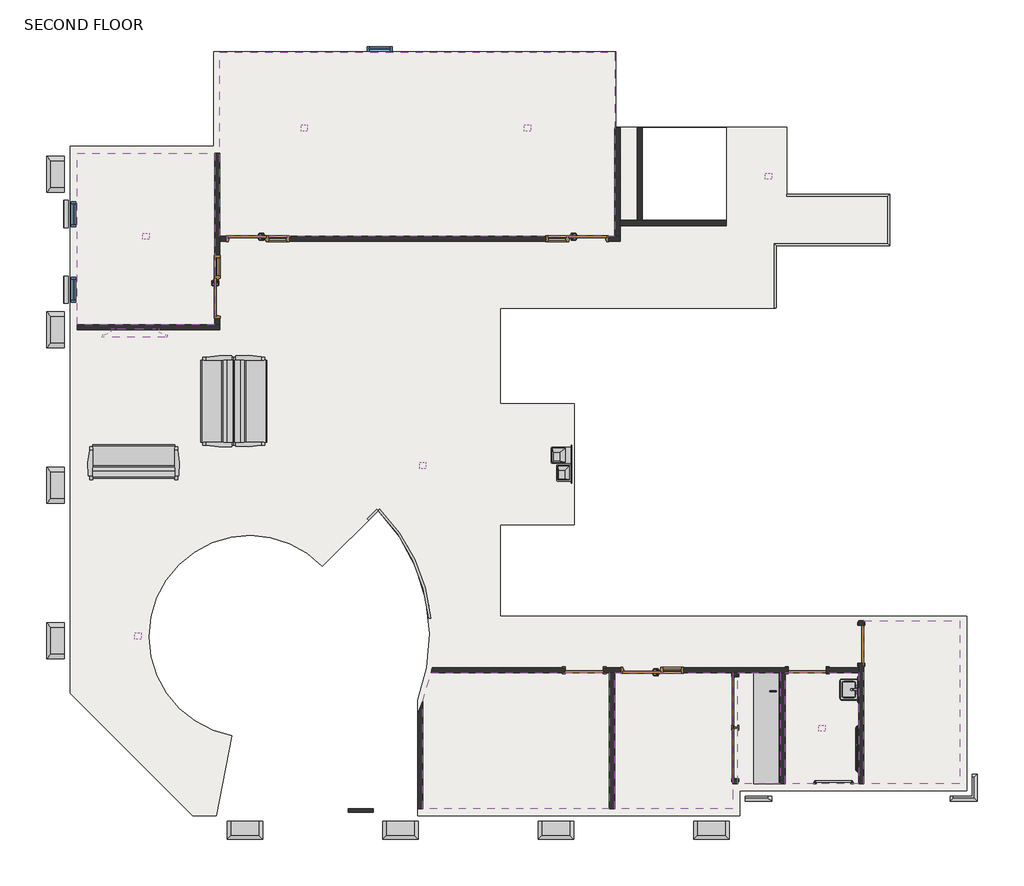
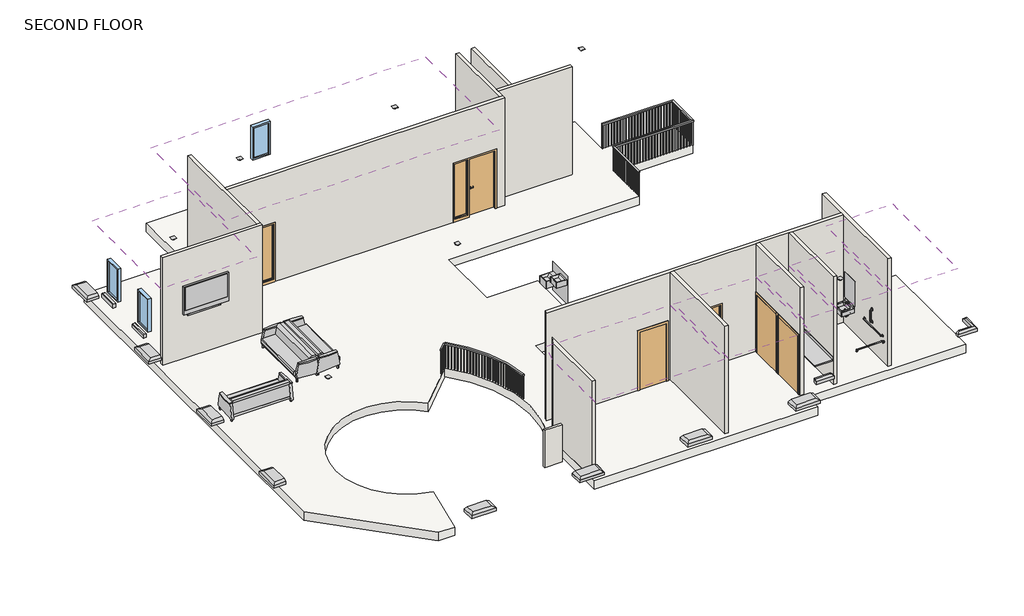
# One storey, incomplete: 13 proxies, 13 walls, 9 doors, 7 alarms, 7 coverings, 4 furniture elements, 3 flow terminals, 3 railings, 4 other elements.
"""IFC4 building model written with IfcOpenShell, lengths in millimetres."""

from ifc_helpers import new_model, si_unit, point, frame, frame_2d, origin, place, context, project, spatial, polyline, circle_curve, trimmed, segment, composite_curve, outline, extrude, faceted_brep, transform, mapped, element, save
from ifc_brep_helpers import plane_surface, revolved_surface, advanced_brep
from components import alarm_15cd_51c740ec, photoelectric_866833d5, column_cap_corner_column_cap_corner_2673580a, column_cap_column_cap_363ad37e, grab_bar_ada_3_piece_grab_bar_ada_3_piece_66226777, precast_column_cap10_precast_column_cap_2545b0d7, precast_column_cap3_precast_column_cap_b02b9755, precast_column_cap4_precast_column_cap_0c692d38, proxy_52aa913c, tv_plasma_65_inch_5397_tv_plasma_42_inch_3d32dca7, door_5f36bbb1, hm_frame_door_interior_single_with_sidelite_831faa12, hm_frame_door_interior_single_with_sidelite_94e37508, door_88503111, door_eb9f8b14, flow_terminal_cf2a86d7, flow_terminal_50ef5554, flow_terminal_77e50434, furniture_2134_mm_67ee6dc0, furniture_60aab8a8, handrail_rectangular_2085f445, handrail_rectangular_c3d4dcf0, handrail_rectangular_678e5dc5, aluminum_exterior_window_single_3885_e2dbf674

model = new_model("IFC4")

# Units and contexts
model_context = context("Model", 3, world=origin())
ifc_project = project(units=[si_unit("LENGTHUNIT", "METRE", prefix="MILLI")], contexts=[model_context])

# Site, building, storey
site = spatial("IfcSite", under=ifc_project)
building = spatial("IfcBuilding", under=site)
storey = spatial("IfcBuildingStorey", under=building, Name="SECOND FLOOR", Elevation=34594.8)

# Alarms
placement = place(None, origin())
alarm_15cd_shape = alarm_15cd_51c740ec(model_context)
element("IfcAlarm", 1, ObjectType="FireBIM Tutorial Strobe (Ceiling) : 15cd", at=placement, inside=storey, context=model_context, shape_type="MappedRepresentation", body=[
    mapped(alarm_15cd_shape, transform((-11026.885253, 10506.2010405, 37338.0), x_axis=(-1.0, 0.0, 0.0), y_axis=(0.0, 1.0, 0.0), z_axis=(0.0, 0.0, -1.0))),
])
element("IfcAlarm", 2, ObjectType="FireBIM Tutorial Strobe (Ceiling) : 15cd", at=placement, inside=storey, context=model_context, shape_type="MappedRepresentation", body=[
    mapped(alarm_15cd_shape, transform((-5630.972753, 10506.2010405, 37338.0), x_axis=(-1.0, 0.0, 0.0), y_axis=(0.0, 1.0, 0.0), z_axis=(0.0, 0.0, -1.0))),
])
element("IfcAlarm", 3, ObjectType="FireBIM Tutorial Strobe (Ceiling) : 15cd", at=placement, inside=storey, context=model_context, shape_type="MappedRepresentation", body=[
    mapped(alarm_15cd_shape, transform((-14854.347753, 7886.8158805, 37338.0), x_axis=(-1.0, 0.0, 0.0), y_axis=(0.0, 1.0, 0.0), z_axis=(0.0, 0.0, -1.0))),
])
element("IfcAlarm", 4, ObjectType="FireBIM Tutorial Strobe (Ceiling) : 15cd", at=placement, inside=storey, context=model_context, shape_type="MappedRepresentation", body=[
    mapped(alarm_15cd_shape, transform((1488.964747, -4003.4981079, 37338.0), x_axis=(-1.0, 0.0, 0.0), y_axis=(0.0, 1.0, 0.0), z_axis=(0.0, 0.0, -1.0))),
])
element("IfcAlarm", 5, ObjectType="FireBIM Tutorial Strobe (Ceiling) : 30cd", at=placement, inside=storey, context=model_context, shape_type="MappedRepresentation", body=[
    mapped(alarm_15cd_shape, transform((-8159.860253, 2349.6260405, 38150.8), x_axis=(1.0, 0.0, 0.0), y_axis=(0.0, -1.0, 0.0), z_axis=(0.0, 0.0, -1.0))),
])
element("IfcAlarm", 6, ObjectType="FireBIM Tutorial Strobe (Ceiling) : 75cd", at=placement, inside=storey, context=model_context, shape_type="MappedRepresentation", body=[
    mapped(alarm_15cd_shape, transform((-15046.435253, -1777.7722564, 38150.8), x_axis=(-1.0, 0.0, 0.0), y_axis=(0.0, 1.0, 0.0), z_axis=(0.0, 0.0, -1.0))),
])
photoelectric_shape = photoelectric_866833d5(model_context)
element("IfcAlarm", 7, ObjectType="FireBIM Tutorial Smoke Detector (Ceiling) : Photoelectric", at=placement, inside=storey, context=model_context, shape_type="MappedRepresentation", body=[
    mapped(photoelectric_shape, transform((196.739747, 9337.8010405, 38150.8), x_axis=(-1.0, 0.0, 0.0), y_axis=(0.0, 1.0, 0.0), z_axis=(0.0, 0.0, -1.0))),
])

# Proxies
column_cap_corner_column_cap_corner_shape = column_cap_corner_column_cap_corner_2673580a(model_context)
element("IfcBuildingElementProxy", 8, Name="COLUMN CAP - CORNER : COLUMN CAP - CORNER", ObjectType="COLUMN CAP - CORNER : COLUMN CAP - CORNER", at=placement, inside=storey, context=model_context, shape_type="MappedRepresentation", body=[
    mapped(column_cap_corner_column_cap_corner_shape, transform((0.0, 0.0, 0.0), x_axis=(1.0, 0.0, 0.0), y_axis=(0.0, 1.0, 0.0), z_axis=(0.0, 0.0, 1.0))),
])
column_cap_column_cap_shape = column_cap_column_cap_363ad37e(model_context)
element("IfcBuildingElementProxy", 9, Name="COLUMN CAP : COLUMN CAP", ObjectType="COLUMN CAP : COLUMN CAP", at=placement, inside=storey, context=model_context, shape_type="MappedRepresentation", body=[
    mapped(column_cap_column_cap_shape, transform((0.0, 0.0, 0.0), x_axis=(1.0, 0.0, 0.0), y_axis=(0.0, 1.0, 0.0), z_axis=(0.0, 0.0, 1.0))),
])
grab_bar_ada_3_piece_grab_bar_ada_3_piece_shape = grab_bar_ada_3_piece_grab_bar_ada_3_piece_66226777(model_context)
element("IfcBuildingElementProxy", 10, Name="Grab Bar ADA - 3 Piece : Grab Bar ADA - 3 Piece", ObjectType="Grab Bar ADA - 3 Piece : Grab Bar ADA - 3 Piece", at=placement, inside=storey, context=model_context, shape_type="MappedRepresentation", body=[
    mapped(grab_bar_ada_3_piece_grab_bar_ada_3_piece_shape, transform((2377.964747, -5495.7989595, 34709.1), x_axis=(-1.0, 0.0, 0.0), y_axis=(0.0, -1.0, 0.0), z_axis=(0.0, 0.0, 1.0))),
])
precast_column_cap10_precast_column_cap_shape = precast_column_cap10_precast_column_cap_2545b0d7(model_context)
element("IfcBuildingElementProxy", 11, Name="Precast Column Cap10 : Precast Column Cap", ObjectType="Precast Column Cap10 : Precast Column Cap", at=placement, inside=storey, context=model_context, shape_type="MappedRepresentation", body=[
    mapped(precast_column_cap10_precast_column_cap_shape, transform((-10566.6362936, -3067.0443725, 0.0), x_axis=(0.0, -1.0, 0.0), y_axis=(1.0, 0.0, 0.0), z_axis=(0.0, 0.0, 1.0))),
])
element("IfcBuildingElementProxy", 12, Name="Precast Column Cap11 : Precast Column Cap", ObjectType="Precast Column Cap11 : Precast Column Cap", at=placement, inside=storey, context=model_context, shape_type="MappedRepresentation", body=[
    mapped(precast_column_cap10_precast_column_cap_shape, transform((-10566.6362936, 692.1454675, 0.0), x_axis=(0.0, -1.0, 0.0), y_axis=(1.0, 0.0, 0.0), z_axis=(0.0, 0.0, 1.0))),
])
element("IfcBuildingElementProxy", 13, Name="Precast Column Cap12 : Precast Column Cap", ObjectType="Precast Column Cap12 : Precast Column Cap", at=placement, inside=storey, context=model_context, shape_type="MappedRepresentation", body=[
    mapped(precast_column_cap10_precast_column_cap_shape, transform((-10566.6362936, 4451.3353075, 0.0), x_axis=(0.0, -1.0, 0.0), y_axis=(1.0, 0.0, 0.0), z_axis=(0.0, 0.0, 1.0))),
])
element("IfcBuildingElementProxy", 14, Name="Precast Column Cap2 : Precast Column Cap", ObjectType="Precast Column Cap2 : Precast Column Cap", at=placement, inside=storey, context=model_context, shape_type="MappedRepresentation", body=[
    mapped(precast_column_cap10_precast_column_cap_shape, transform((0.0, 0.0, 0.0), x_axis=(1.0, 0.0, 0.0), y_axis=(0.0, 1.0, 0.0), z_axis=(0.0, 0.0, 1.0))),
])
precast_column_cap3_precast_column_cap_shape = precast_column_cap3_precast_column_cap_b02b9755(model_context)
element("IfcBuildingElementProxy", 15, Name="Precast Column Cap3 : Precast Column Cap", ObjectType="Precast Column Cap3 : Precast Column Cap", at=placement, inside=storey, context=model_context, shape_type="MappedRepresentation", body=[
    mapped(precast_column_cap3_precast_column_cap_shape, transform((0.0, 0.0, 0.0), x_axis=(1.0, 0.0, 0.0), y_axis=(0.0, 1.0, 0.0), z_axis=(0.0, 0.0, 1.0))),
])
precast_column_cap4_precast_column_cap_shape = precast_column_cap4_precast_column_cap_0c692d38(model_context)
element("IfcBuildingElementProxy", 16, Name="Precast Column Cap4 : Precast Column Cap", ObjectType="Precast Column Cap4 : Precast Column Cap", at=placement, inside=storey, context=model_context, shape_type="MappedRepresentation", body=[
    mapped(precast_column_cap4_precast_column_cap_shape, transform((0.0, 0.0, 0.0), x_axis=(1.0, 0.0, 0.0), y_axis=(0.0, 1.0, 0.0), z_axis=(0.0, 0.0, 1.0))),
])
element("IfcBuildingElementProxy", 17, Name="Precast Column Cap9 : Precast Column Cap", ObjectType="Precast Column Cap9 : Precast Column Cap", at=placement, inside=storey, context=model_context, shape_type="MappedRepresentation", body=[
    mapped(precast_column_cap10_precast_column_cap_shape, transform((-10566.6362936, -6826.214034, 0.0), x_axis=(0.0, -1.0, 0.0), y_axis=(1.0, 0.0, 0.0), z_axis=(0.0, 0.0, 1.0))),
])
proxy_shape = proxy_52aa913c(model_context)
element("IfcBuildingElementProxy", 18, Name="Stone Sill : 2' x 8\" x 3 5/8\" Deep", ObjectType="Stone Sill : 2' x 8\" x 3 5/8\" Deep", at=placement, inside=storey, context=model_context, shape_type="MappedRepresentation", body=[
    mapped(proxy_shape, transform((-16673.80834, 5980.3756405, 33267.1320312), x_axis=(0.0, 1.0, 0.0), y_axis=(-1.0, 0.0, 0.0), z_axis=(0.0, 0.0, 1.0))),
])
element("IfcBuildingElementProxy", 19, Name="Stone Sill : 2' x 8\" x 3 5/8\" Deep", ObjectType="Stone Sill : 2' x 8\" x 3 5/8\" Deep", at=placement, inside=storey, context=model_context, shape_type="MappedRepresentation", body=[
    mapped(proxy_shape, transform((-16673.80834, 7809.1756405, 33267.1320313), x_axis=(0.0, 1.0, 0.0), y_axis=(-1.0, 0.0, 0.0), z_axis=(0.0, 0.0, 1.0))),
])
tv_plasma_65_inch_5397_tv_plasma_42_inch_shape = tv_plasma_65_inch_5397_tv_plasma_42_inch_3d32dca7(model_context)
element("IfcBuildingElementProxy", 20, Name="TV_PLASMA_65_INCH_5397 : TV Plasma 42 inch", ObjectType="TV_PLASMA_65_INCH_5397 : TV Plasma 42 inch", at=placement, inside=storey, context=model_context, shape_type="MappedRepresentation", body=[
    mapped(tv_plasma_65_inch_5397_tv_plasma_42_inch_shape, transform((-15119.460253, 5502.3807205, 35509.2), x_axis=(1.0, 0.0, 0.0), y_axis=(0.0, 1.0, 0.0), z_axis=(0.0, 0.0, 1.0))),
])

# Coverings
element("IfcCovering", 21, ObjectType="2' x 2' ACT System", at=placement, inside=storey, context=model_context, shape_type="SweptSolid", body=[
    extrude(outline(composite_curve([segment(polyline([(-3649.772753, -2663.5972564), (-3649.772753, -5952.9989595), (-8159.860253, -5952.9989595), (-8159.860253, -3356.4468483)]), True, "CONTINUOUS"), segment(trimmed(circle_curve(frame_2d((-12311.0905196, -1776.2264191)), 4441.825), [point((-8159.860253, -3356.4468483))], [point((-7958.8057946, -2663.5972564))], True, "CARTESIAN"), True, "CONTINUOUS"), segment(polyline([(-7958.8057946, -2663.5972564), (-3649.772753, -2663.5972564)]), True, "CONTINUOUS")], self_intersect=False)), frame((0.0, 0.0, 37338.0), z_axis=(0.0, 0.0, 1.0), x_axis=(1.0, 0.0, 0.0)), (0.0, 0.0, 1.0), 57.15),
])
element("IfcCovering", 22, ObjectType="2' x 2' ACT System", at=placement, inside=storey, context=model_context, shape_type="SweptSolid", body=[
    extrude(outline(polyline([(-670.035253, -2663.5972564), (-670.035253, -5495.7989595), (-670.035253, -5952.9989595), (-3525.947753, -5952.9989595), (-3525.947753, -2663.5972564), (-670.035253, -2663.5972564)])), frame((0.0, 0.0, 37338.0), z_axis=(0.0, 0.0, 1.0), x_axis=(1.0, 0.0, 0.0)), (0.0, 0.0, 1.0), 57.15),
])
element("IfcCovering", 23, ObjectType="2' x 2' ACT System", at=placement, inside=storey, context=model_context, shape_type="SweptSolid", body=[
    extrude(outline(polyline([(476.139747, -2663.5972564), (476.139747, -5343.3989595), (-546.210253, -5343.3989595), (-546.210253, -2663.5972564), (476.139747, -2663.5972564)])), frame((0.0, 0.0, 37338.0), z_axis=(0.0, 0.0, 1.0), x_axis=(1.0, 0.0, 0.0)), (0.0, 0.0, 1.0), 57.15),
])
element("IfcCovering", 24, ObjectType="2' x 2' ACT System", at=placement, inside=storey, context=model_context, shape_type="SweptSolid", body=[
    extrude(outline(polyline([(2377.964747, -5343.3989595), (599.964747, -5343.3989595), (599.964747, -2663.5972564), (2377.964747, -2663.5972564), (2377.964747, -5343.3989595)])), frame((0.0, 0.0, 37338.0), z_axis=(0.0, 0.0, 1.0), x_axis=(1.0, 0.0, 0.0)), (0.0, 0.0, 1.0), 57.15),
])
element("IfcCovering", 25, ObjectType="2' x 2' ACT System", at=placement, inside=storey, context=model_context, shape_type="SweptSolid", body=[
    extrude(outline(polyline([(4816.364747, -1403.2239595), (4816.364747, -5343.3989595), (2501.789747, -5343.3989595), (2501.789747, -1403.2239595), (4816.364747, -1403.2239595)])), frame((0.0, 0.0, 37338.0), z_axis=(0.0, 0.0, 1.0), x_axis=(1.0, 0.0, 0.0)), (0.0, 0.0, 1.0), 57.15),
])
element("IfcCovering", 26, ObjectType="2' x 2' ACT System", at=placement, inside=storey, context=model_context, shape_type="SweptSolid", body=[
    extrude(outline(polyline([(-13065.235253, 12335.0010405), (-8332.897753, 12335.0010405), (-3514.835253, 12335.0010405), (-3514.835253, 10658.6010405), (-3514.835253, 7886.8158805), (-13065.235253, 7886.8158805), (-13065.235253, 10049.0010405), (-13065.235253, 12335.0010405)])), frame((0.0, 0.0, 37338.0), z_axis=(0.0, 0.0, 1.0), x_axis=(1.0, 0.0, 0.0)), (0.0, 0.0, 1.0), 57.15),
])
element("IfcCovering", 27, ObjectType="2' x 2' ACT System", at=placement, inside=storey, context=model_context, shape_type="SweptSolid", body=[
    extrude(outline(polyline([(-16519.635253, 9896.6010405), (-13189.060253, 9896.6010405), (-13189.060253, 5753.2057205), (-16519.635253, 5753.2057205), (-16519.635253, 9896.6010405)])), frame((0.0, 0.0, 37338.0), z_axis=(0.0, 0.0, 1.0), x_axis=(1.0, 0.0, 0.0)), (0.0, 0.0, 1.0), 57.15),
])

# Doors
door_shape = door_5f36bbb1(model_context)
element("IfcDoor", 28, ObjectType="Double-Flush-Wood Frame : (2) 2'-0\" x 7'-0\"", at=placement, inside=storey, context=model_context, shape_type="MappedRepresentation", body=[
    mapped(door_shape, transform((-608.122753, -3368.4472564, 34594.8), x_axis=(0.0, 1.0, 0.0), y_axis=(-1.0, 0.0, 0.0), z_axis=(0.0, 0.0, 1.0))),
])
element("IfcDoor", 29, ObjectType="Double-Flush-Wood Frame : (2) 2'-0\" x 7'-0\"", at=placement, inside=storey, context=model_context, shape_type="MappedRepresentation", body=[
    mapped(door_shape, transform((-608.122753, -4613.0472564, 34594.8), x_axis=(0.0, 1.0, 0.0), y_axis=(-1.0, 0.0, 0.0), z_axis=(0.0, 0.0, 1.0))),
])
hm_frame_door_interior_single_with_sidelite_shape = hm_frame_door_interior_single_with_sidelite_831faa12(model_context)
element("IfcDoor", 30, ObjectType="HM Frame Door - Interior Single with Sidelite : 36\" x 84\" x 5.75\" x 18\" Lite_Wood", at=placement, inside=storey, context=model_context, shape_type="MappedRepresentation", body=[
    mapped(hm_frame_door_interior_single_with_sidelite_shape, transform((-2865.547753, -2601.6847564, 34594.8), x_axis=(-1.0, 0.0, 0.0), y_axis=(0.0, -1.0, 0.0), z_axis=(0.0, 0.0, 1.0))),
])
element("IfcDoor", 31, ObjectType="HM Frame Door - Interior Single with Sidelite : 36\" x 84\" x 5.75\" x 18\" Lite_Wood", at=placement, inside=storey, context=model_context, shape_type="MappedRepresentation", body=[
    mapped(hm_frame_door_interior_single_with_sidelite_shape, transform((-4175.235253, 7824.9033805, 34594.8), x_axis=(1.0, 0.0, 0.0), y_axis=(0.0, 1.0, 0.0), z_axis=(0.0, 0.0, 1.0))),
])
hm_frame_door_interior_single_with_sidelite_2_shape = hm_frame_door_interior_single_with_sidelite_94e37508(model_context)
element("IfcDoor", 32, ObjectType="HM Frame Door - Interior Single with Sidelite : 36\" x 84\" x 5.75\" x 18\" Lite_Wood", at=placement, inside=storey, context=model_context, shape_type="MappedRepresentation", body=[
    mapped(hm_frame_door_interior_single_with_sidelite_2_shape, transform((-13127.147753, 6413.6057205, 34594.8), x_axis=(0.0, -1.0, 0.0), y_axis=(1.0, 0.0, 0.0), z_axis=(0.0, 0.0, 1.0))),
])
element("IfcDoor", 33, ObjectType="HM Frame Door - Interior Single with Sidelite : 36\" x 84\" x 5.75\" x 18\" Lite_Wood", at=placement, inside=storey, context=model_context, shape_type="MappedRepresentation", body=[
    mapped(hm_frame_door_interior_single_with_sidelite_2_shape, transform((-12404.835253, 7824.9033805, 34594.8), x_axis=(-1.0, 0.0, 0.0), y_axis=(0.0, -1.0, 0.0), z_axis=(0.0, 0.0, 1.0))),
])
door_2_shape = door_88503111(model_context)
element("IfcDoor", 34, ObjectType="Single-Flush : 36\" x 84\"", at=placement, inside=storey, context=model_context, shape_type="MappedRepresentation", body=[
    mapped(door_2_shape, transform((1133.364747, -2601.6847564, 34594.8), x_axis=(-1.0, 0.0, 0.0), y_axis=(0.0, -1.0, 0.0), z_axis=(0.0, 0.0, 1.0))),
])
door_3_shape = door_eb9f8b14(model_context)
element("IfcDoor", 35, ObjectType="Single-Flush : 36\" x 84\"", at=placement, inside=storey, context=model_context, shape_type="MappedRepresentation", body=[
    mapped(door_3_shape, transform((2439.877247, -1971.4981079, 34594.8), x_axis=(0.0, 1.0, 0.0), y_axis=(-1.0, 0.0, 0.0), z_axis=(0.0, 0.0, 1.0))),
])
element("IfcDoor", 36, ObjectType="Single-Flush : 36\" x 84\"", at=placement, inside=storey, context=model_context, shape_type="MappedRepresentation", body=[
    mapped(door_3_shape, transform((-4259.372753, -2601.6847564, 34594.8), x_axis=(1.0, 0.0, 0.0), y_axis=(0.0, 1.0, 0.0), z_axis=(0.0, 0.0, 1.0))),
])

# Flow terminals
flow_terminal_shape = flow_terminal_cf2a86d7(model_context)
element("IfcFlowTerminal", 37, ObjectType="Drinking Fountain-Hi-Lo-3D : Drinking Fountain-Hi-Lo-3D", at=placement, inside=storey, context=model_context, shape_type="MappedRepresentation", body=[
    mapped(flow_terminal_shape, transform((-4502.260253, 2390.3195947, 34594.8), x_axis=(0.0, 1.0, 0.0), y_axis=(-1.0, 0.0, 0.0), z_axis=(0.0, 0.0, 1.0))),
])
flow_terminal_2_shape = flow_terminal_50ef5554(model_context)
element("IfcFlowTerminal", 38, ObjectType="Sink Kitchen-Single : 24\" x 21\"", at=placement, inside=storey, context=model_context, shape_type="MappedRepresentation", body=[
    mapped(flow_terminal_2_shape, transform((168.9638659, -3092.4080159, 34442.4), x_axis=(0.0, -1.0, 0.0), y_axis=(1.0, 0.0, 0.0), z_axis=(0.0, 0.0, 1.0))),
])
flow_terminal_3_shape = flow_terminal_77e50434(model_context)
element("IfcFlowTerminal", 39, ObjectType="sink_wall hung w_mirror_4835 : 20\" x 18\"", at=placement, inside=storey, context=model_context, shape_type="MappedRepresentation", body=[
    mapped(flow_terminal_3_shape, transform((2439.877247, -3363.5869526, 34594.8), x_axis=(0.0, 1.0, 0.0), y_axis=(-1.0, 0.0, 0.0), z_axis=(0.0, 0.0, 1.0))),
])

# Furniture
furniture_2134_mm_shape = furniture_2134_mm_67ee6dc0(model_context)
element("IfcFurniture", 40, ObjectType="M_Banquette (2) : 2134 mm", at=placement, inside=storey, context=model_context, shape_type="MappedRepresentation", body=[
    mapped(furniture_2134_mm_shape, transform((-12076.925417, 3623.5947905, 34594.8), x_axis=(0.0, 1.0, 0.0), y_axis=(-1.0, 0.0, 0.0), z_axis=(0.0, 0.0, 1.0))),
])
element("IfcFurniture", 41, ObjectType="M_Banquette (2) : 2134 mm", at=placement, inside=storey, context=model_context, shape_type="MappedRepresentation", body=[
    mapped(furniture_2134_mm_shape, transform((-14869.429003, 2706.1007166, 34594.8), x_axis=(-1.0, 0.0, 0.0), y_axis=(0.0, -1.0, 0.0), z_axis=(0.0, 0.0, 1.0))),
])
element("IfcFurniture", 42, ObjectType="M_Banquette (2) : 2134 mm", at=placement, inside=storey, context=model_context, shape_type="MappedRepresentation", body=[
    mapped(furniture_2134_mm_shape, transform((-13386.7950891, 4180.8072905, 34594.8), x_axis=(0.0, -1.0, 0.0), y_axis=(1.0, 0.0, 0.0), z_axis=(0.0, 0.0, 1.0))),
])
furniture_shape = furniture_60aab8a8(model_context)
element("IfcFurniture", 43, ObjectType="Counter Top : 24\" Depth", at=placement, inside=storey, context=model_context, shape_type="MappedRepresentation", body=[
    mapped(furniture_shape, transform((476.139747, -3864.0595515, 34594.8), x_axis=(0.0, -1.0, 0.0), y_axis=(1.0, 0.0, 0.0), z_axis=(0.0, 0.0, 1.0))),
])

# Railings
handrail_rectangular_shape = handrail_rectangular_2085f445(model_context)
element("IfcRailing", 44, ObjectType="Handrail - Rectangular", at=placement, inside=storey, context=model_context, shape_type="MappedRepresentation", body=[
    mapped(handrail_rectangular_shape, transform((0.0, 0.0, 0.0), x_axis=(1.0, 0.0, 0.0), y_axis=(0.0, 1.0, 0.0), z_axis=(0.0, 0.0, 1.0))),
])
handrail_rectangular_2_shape = handrail_rectangular_c3d4dcf0(model_context)
element("IfcRailing", 45, ObjectType="Handrail - Rectangular", at=placement, inside=storey, context=model_context, shape_type="MappedRepresentation", body=[
    mapped(handrail_rectangular_2_shape, transform((0.0, 0.0, 0.0), x_axis=(1.0, 0.0, 0.0), y_axis=(0.0, 1.0, 0.0), z_axis=(0.0, 0.0, 1.0))),
])
handrail_rectangular_3_shape = handrail_rectangular_678e5dc5(model_context)
element("IfcRailing", 46, ObjectType="Handrail - Rectangular", at=placement, inside=storey, context=model_context, shape_type="MappedRepresentation", body=[
    mapped(handrail_rectangular_3_shape, transform((0.0, 0.0, 0.0), x_axis=(1.0, 0.0, 0.0), y_axis=(0.0, 1.0, 0.0), z_axis=(0.0, 0.0, 1.0))),
])

# Slab
element("IfcSlab", 47, ObjectType="Generic - 12\"", at=placement, inside=storey, context=model_context, shape_type="SweptSolid", body=[
    extrude(outline(composite_curve([segment(polyline([(-16687.910253, 10064.8760405), (-13217.635253, 10064.8760405), (-13217.635253, 12350.8760405), (-3498.960253, 12350.8760405), (-3498.960253, 10522.0760405), (639.7789583, 10522.0760405), (639.7789583, 8880.6010405), (3103.5789583, 8880.6010405), (3103.5789583, 7683.6260405), (360.3789583, 7683.6260405), (360.3789583, 6143.7510405), (-6286.610253, 6143.7510405), (-6286.610253, 3840.2885405), (-4502.260253, 3840.2885405), (-4502.260253, 916.1135405), (-6286.610253, 916.1135405), (-6286.610253, -1295.2739595), (4984.639747, -1295.2739595), (4984.639747, -5511.6739595), (-501.760253, -5511.6739595), (-501.760253, -6121.2739595), (-8283.685253, -6121.2739595), (-8283.685253, -3333.5095722)]), True, "CONTINUOUS"), segment(trimmed(circle_curve(frame_2d((-12311.0905196, -1776.2264191)), 4318.0), [point((-8283.685253, -3333.5095722))], [point((-9237.3360005, 1256.4550934))], True, "CARTESIAN"), True, "CONTINUOUS"), segment(polyline([(-9237.3360005, 1256.4550934), (-10586.567731, -92.776637)]), True, "CONTINUOUS"), segment(trimmed(circle_curve(frame_2d((-12346.8147633, -1780.1784698)), 2438.4), [point((-10586.567731, -92.776637))], [point((-12774.0818528, -4180.8528322))], True, "CARTESIAN"), True, "CONTINUOUS"), segment(polyline([(-12774.0818528, -4180.8528322), (-13147.6942193, -6121.2739595), (-13719.8847464, -6121.2739595), (-16687.910253, -3153.2484529), (-16687.910253, 10064.8760405)]), True, "CONTINUOUS")], self_intersect=False), holes=[polyline([(-822.435253, 10506.2010405), (-2854.435253, 10506.2010405), (-2854.435253, 8271.0010405), (-822.435253, 8271.0010405), (-822.435253, 10506.2010405)])]), frame((0.0, 0.0, 34290.0), z_axis=(0.0, 0.0, 1.0), x_axis=(1.0, 0.0, 0.0)), (0.0, 0.0, 1.0), 304.8),
])

# Walls
element("IfcWall", 48, ObjectType="Interior - 3 1/8\" Partition (1-hr)", at=placement, inside=storey, context=model_context, shape_type="SweptSolid", body=[
    extrude(outline(polyline([(-9966.435253, -5952.9989595), (-9356.835253, -5952.9989595), (-9356.835253, -6032.3739595), (-9966.435253, -6032.3739595), (-9966.435253, -5952.9989595)])), frame((0.0, 0.0, 35610.8), z_axis=(0.0, 0.0, 1.0), x_axis=(1.0, 0.0, 0.0)), (0.0, 0.0, 1.0), 1371.6),
])
element("IfcWall", 49, ObjectType="Interior - 4 7/8\" Partition (1-hr)", at=placement, inside=storey, context=model_context, shape_type="SweptSolid", body=[
    extrude(outline(polyline([(-5343.3989595, 38557.2), (-2663.5972564, 38557.2), (-2663.5972564, 34594.8), (-2733.4472564, 34594.8), (-2733.4472564, 36753.8), (-5248.0472564, 36753.8), (-5248.0472564, 34594.8), (-5343.3989595, 34594.8), (-5343.3989595, 38557.2)])), frame((-670.035253, 0.0, 0.0), z_axis=(1.0, 0.0, 0.0), x_axis=(0.0, 1.0, 0.0)), (0.0, 0.0, 1.0), 123.825),
])
element("IfcWall", 50, ObjectType="Interior - 4 7/8\" Partition (1-hr)", at=placement, inside=storey, context=model_context, shape_type="Brep", body=[
    faceted_brep([(-16519.635253, 5629.3807205, 34594.8), (-13065.235253, 5629.3807205, 34594.8), (-13065.235253, 5629.3807205, 38557.2), (-16519.635253, 5629.3807205, 38557.2), (-16519.635253, 5753.2057205, 34594.8), (-16519.635253, 5753.2057205, 38557.2), (-13189.060253, 5753.2057205, 38557.2), (-13065.235253, 5753.2057205, 38557.2), (-13065.235253, 5753.2057205, 34594.8), (-13189.060253, 5753.2057205, 34594.8)], [[[0, 1, 2, 3]], [[4, 5, 6, 7, 8, 9]], [[1, 0, 4, 9, 8]], [[3, 2, 7, 6, 5]], [[0, 3, 5, 4]], [[2, 1, 8, 7]]]),
])
element("IfcWall", 51, ObjectType="Interior - 4 7/8\" Partition (1-hr)", at=placement, inside=storey, context=model_context, shape_type="Brep", body=[
    faceted_brep([(-13065.235253, 5753.2057205, 34594.8), (-13065.235253, 5905.6057205, 34594.8), (-13065.235253, 5905.6057205, 36779.2), (-13065.235253, 7429.6057205, 36779.2), (-13065.235253, 7429.6057205, 34594.8), (-13065.235253, 7762.9908805, 34594.8), (-13065.235253, 7886.8158805, 34594.8), (-13065.235253, 9896.6010405, 34594.8), (-13065.235253, 9896.6010405, 38557.2), (-13065.235253, 7886.8158805, 38557.2), (-13065.235253, 7762.9908805, 38557.2), (-13065.235253, 5753.2057205, 38557.2), (-13189.060253, 5905.6057205, 36779.2), (-13189.060253, 5905.6057205, 34594.8), (-13189.060253, 5753.2057205, 34594.8), (-13189.060253, 5753.2057205, 38557.2), (-13189.060253, 9896.6010405, 38557.2), (-13189.060253, 9896.6010405, 34594.8), (-13189.060253, 7429.6057205, 34594.8), (-13189.060253, 7429.6057205, 36779.2)], [[[0, 1, 2, 3, 4, 5, 6, 7, 8, 9, 10, 11]], [[12, 13, 14, 15, 16, 17, 18, 19]], [[18, 17, 7, 6, 5, 4]], [[14, 13, 1, 0]], [[11, 10, 9, 8, 16, 15]], [[0, 11, 15, 14]], [[8, 7, 17, 16]], [[3, 2, 12, 19]], [[4, 3, 19, 18]], [[2, 1, 13, 12]]]),
])
element("IfcWall", 52, ObjectType="Interior - 4 7/8\" Partition (1-hr)", at=placement, inside=storey, context=model_context, shape_type="SweptSolid", body=[
    extrude(outline(polyline([(-2978.260253, 8271.0010405), (-2978.260253, 10506.2010405), (-2854.435253, 10506.2010405), (-2854.435253, 8271.0010405), (-2978.260253, 8271.0010405)])), frame((0.0, 0.0, 34594.8), z_axis=(0.0, 0.0, 1.0), x_axis=(1.0, 0.0, 0.0)), (0.0, 0.0, 1.0), 3962.4),
])
element("IfcWall", 53, ObjectType="Interior - 4 7/8\" Partition (1-hr)", at=placement, inside=storey, context=model_context, shape_type="AdvancedBrep", body=[
    advanced_brep(
    [(2377.964747, -2663.5972564, 34594.8), (2377.964747, -2663.5972564, 38557.2), (599.964747, -2663.5972564, 38557.2), (476.139747, -2663.5972564, 38557.2), (-546.210253, -2663.5972564, 38557.2), (-670.035253, -2663.5972564, 38557.2), (-3525.947753, -2663.5972564, 38557.2), (-3649.772753, -2663.5972564, 38557.2), (-7958.8057946, -2663.5972564, 38557.2), (-7958.8057946, -2663.5972564, 34594.8), (-4716.572753, -2663.5972564, 34594.8), (-4716.572753, -2663.5972564, 36728.4), (-3802.172753, -2663.5972564, 36728.4), (-3802.172753, -2663.5972564, 34594.8), (-3649.772753, -2663.5972564, 34594.8), (-3525.947753, -2663.5972564, 34594.8), (-3373.547753, -2663.5972564, 34594.8), (-3373.547753, -2663.5972564, 36779.2), (-1849.547753, -2663.5972564, 36779.2), (-1849.547753, -2663.5972564, 34594.8), (-670.035253, -2663.5972564, 34594.8), (-546.210253, -2663.5972564, 34594.8), (476.139747, -2663.5972564, 34594.8), (599.964747, -2663.5972564, 34594.8), (676.164747, -2663.5972564, 34594.8), (676.164747, -2663.5972564, 36728.4), (1590.564747, -2663.5972564, 36728.4), (1590.564747, -2663.5972564, 34594.8), (-7935.3840526, -2539.7722564, 38557.2), (2377.964747, -2539.7722564, 38557.2), (2377.964747, -2539.7722564, 34594.8), (1590.564747, -2539.7722564, 34594.8), (1590.564747, -2539.7722564, 36728.4), (676.164747, -2539.7722564, 36728.4), (676.164747, -2539.7722564, 34594.8), (-1849.547753, -2539.7722564, 34594.8), (-1849.547753, -2539.7722564, 36779.2), (-3373.547753, -2539.7722564, 36779.2), (-3373.547753, -2539.7722564, 34594.8), (-3802.172753, -2539.7722564, 34594.8), (-3802.172753, -2539.7722564, 36728.4), (-4716.572753, -2539.7722564, 36728.4), (-4716.572753, -2539.7722564, 34594.8), (-7935.3840526, -2539.7722564, 34594.8)],
    [
        (0, 1),
        (1, 2),
        (2, 3),
        (3, 4),
        (4, 5),
        (5, 6),
        (6, 7),
        (7, 8),
        (8, 9),
        (9, 10),
        (10, 11),
        (11, 12),
        (12, 13),
        (13, 14),
        (14, 15),
        (15, 16),
        (16, 17),
        (17, 18),
        (18, 19),
        (19, 20),
        (20, 21),
        (21, 22),
        (22, 23),
        (23, 24),
        (24, 25),
        (25, 26),
        (26, 27),
        (27, 0),
        (28, 29),
        (29, 30),
        (30, 31),
        (31, 32),
        (32, 33),
        (33, 34),
        (34, 35),
        (35, 36),
        (36, 37),
        (37, 38),
        (38, 39),
        (39, 40),
        (40, 41),
        (41, 42),
        (42, 43),
        (43, 28),
        (30, 0),
        (27, 31),
        (19, 35),
        (34, 24),
        (38, 16),
        (13, 39),
        (9, 43, circle_curve(frame((-12311.0905196, -1776.2264191, 34594.8), z_axis=(0.0, 0.0, 1.0), x_axis=(0.28138336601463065, -0.9595954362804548, 0.0)), 4441.825)),
        (42, 10),
        (28, 8, circle_curve(frame((-12311.0905196, -1776.2264191, 38557.2), z_axis=(0.0, 0.0, -1.0), x_axis=(0.28138336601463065, -0.9595954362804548, 0.0)), 4441.825)),
        (1, 29),
        (17, 37),
        (36, 18),
        (33, 25),
        (32, 26),
        (12, 40),
        (11, 41),
    ],
    [
        plane_surface(frame((-8022.010606, -2663.5972564, 34594.8), z_axis=(0.0, -1.0, 0.0), x_axis=(1.0, 0.0, 0.0))),
        plane_surface(frame((-8022.010606, -2539.7722564, 34594.8), z_axis=(0.0, 1.0, 0.0), x_axis=(-1.0, 0.0, 0.0))),
        plane_surface(frame((-8009.6660996, -2663.5972564, 34594.8), z_axis=(0.0, 0.0, -1.0), x_axis=(0.0, 1.0, 0.0))),
        plane_surface(frame((2439.877247, -2663.5972564, 38557.2), z_axis=(0.0, 0.0, 1.0), x_axis=(0.0, 1.0, 0.0))),
        plane_surface(frame((2377.964747, -2663.5972564, 34594.8), z_axis=(1.0, 0.0, 0.0), x_axis=(0.0, -1.0, 0.0))),
        plane_surface(frame((-3373.547753, -2663.5972564, 36779.2), z_axis=(0.0, 0.0, -1.0), x_axis=(0.0, 1.0, 0.0))),
        plane_surface(frame((-1849.547753, -2663.5972564, 36779.2), z_axis=(-1.0, 0.0, 0.0), x_axis=(0.0, 1.0, 0.0))),
        plane_surface(frame((-3373.547753, -2663.5972564, 34594.8), z_axis=(1.0, 0.0, 0.0), x_axis=(0.0, 1.0, 0.0))),
        plane_surface(frame((676.164747, -2663.5972564, 34594.8), z_axis=(1.0, 0.0, 0.0), x_axis=(0.0, 1.0, 0.0))),
        plane_surface(frame((676.164747, -2663.5972564, 36728.4), z_axis=(0.0, 0.0, -1.0), x_axis=(0.0, 1.0, 0.0))),
        plane_surface(frame((1590.564747, -2663.5972564, 36728.4), z_axis=(-1.0, 0.0, 0.0), x_axis=(0.0, 1.0, 0.0))),
        revolved_surface(polyline([(-11061.234849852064, -6038.581417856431, 38557.2), (-11061.234849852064, -6038.581417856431, 34594.8)]), (-12311.0905196, -1776.2264191, 34594.8), (0.0, 0.0, 1.0)),
        plane_surface(frame((-3802.172753, -2539.7722564, 34594.8), z_axis=(-1.0, 0.0, 0.0), x_axis=(0.0, -1.0, 0.0))),
        plane_surface(frame((-3802.172753, -2539.7722564, 36728.4), z_axis=(0.0, 0.0, -1.0), x_axis=(0.0, -1.0, 0.0))),
        plane_surface(frame((-4716.572753, -2539.7722564, 36728.4), z_axis=(1.0, 0.0, 0.0), x_axis=(0.0, -1.0, 0.0))),
    ],
    [
        (0, [[1, 2, 3, 4, 5, 6, 7, 8, 9, 10, 11, 12, 13, 14, 15, 16, 17, 18, 19, 20, 21, 22, 23, 24, 25, 26, 27, 28]]),
        (1, [[29, 30, 31, 32, 33, 34, 35, 36, 37, 38, 39, 40, 41, 42, 43, 44]]),
        (2, [[45, -28, 46, -31]]),
        (2, [[47, -35, 48, -24, -23, -22, -21, -20]]),
        (2, [[49, -16, -15, -14, 50, -39]]),
        (2, [[51, -43, 52, -10]]),
        (3, [[-29, 53, -8, -7, -6, -5, -4, -3, -2, 54]]),
        (4, [[-1, -45, -30, -54]]),
        (5, [[-18, 55, -37, 56]]),
        (6, [[-19, -56, -36, -47]]),
        (7, [[-17, -49, -38, -55]]),
        (8, [[-25, -48, -34, 57]]),
        (9, [[-26, -57, -33, 58]]),
        (10, [[-27, -58, -32, -46]]),
        (11, [[-9, -53, -44, -51]]),
        (12, [[-40, -50, -13, 59]]),
        (13, [[-41, -59, -12, 60]]),
        (14, [[-42, -60, -11, -52]]),
    ],
),
])
element("IfcWall", 54, ObjectType="Interior - 4 7/8\" Partition (1-hr)", at=placement, inside=storey, context=model_context, shape_type="Brep", body=[
    faceted_brep([(2377.964747, -1403.2239595, 34594.8), (2377.964747, -1514.2981079, 34594.8), (2377.964747, -1514.2981079, 36728.4), (2377.964747, -2428.6981079, 36728.4), (2377.964747, -2428.6981079, 34594.8), (2377.964747, -2539.7722564, 34594.8), (2377.964747, -2663.5972564, 34594.8), (2377.964747, -5343.3989595, 34594.8), (2377.964747, -5343.3989595, 38557.2), (2377.964747, -2663.5972564, 38557.2), (2377.964747, -2539.7722564, 38557.2), (2377.964747, -1403.2239595, 38557.2), (2501.789747, -1514.2981079, 36728.4), (2501.789747, -1514.2981079, 34594.8), (2501.789747, -1403.2239595, 34594.8), (2501.789747, -1403.2239595, 38557.2), (2501.789747, -5343.3989595, 38557.2), (2501.789747, -5343.3989595, 34594.8), (2501.789747, -2428.6981079, 34594.8), (2501.789747, -2428.6981079, 36728.4)], [[[0, 1, 2, 3, 4, 5, 6, 7, 8, 9, 10, 11]], [[12, 13, 14, 15, 16, 17, 18, 19]], [[18, 17, 7, 6, 5, 4]], [[14, 13, 1, 0]], [[11, 10, 9, 8, 16, 15]], [[8, 7, 17, 16]], [[0, 11, 15, 14]], [[2, 1, 13, 12]], [[3, 2, 12, 19]], [[4, 3, 19, 18]]]),
])
element("IfcWall", 55, ObjectType="Interior - 4 7/8\" Partition (1-hr)", at=placement, inside=storey, context=model_context, shape_type="SweptSolid", body=[
    extrude(outline(polyline([(-3525.947753, -2663.5972564), (-3525.947753, -5952.9989595), (-3649.772753, -5952.9989595), (-3649.772753, -2663.5972564), (-3525.947753, -2663.5972564)])), frame((0.0, 0.0, 34594.8), z_axis=(0.0, 0.0, 1.0), x_axis=(1.0, 0.0, 0.0)), (0.0, 0.0, 1.0), 3962.4),
])
element("IfcWall", 56, ObjectType="Interior - 4 7/8\" Partition (1-hr)", at=placement, inside=storey, context=model_context, shape_type="SweptSolid", body=[
    extrude(outline(polyline([(599.964747, -2663.5972564), (599.964747, -5343.3989595), (476.139747, -5343.3989595), (476.139747, -2663.5972564), (599.964747, -2663.5972564)])), frame((0.0, 0.0, 34594.8), z_axis=(0.0, 0.0, 1.0), x_axis=(1.0, 0.0, 0.0)), (0.0, 0.0, 1.0), 3962.4),
])
element("IfcWall", 57, ObjectType="Interior - 4 7/8\" Partition (1-hr)", at=placement, inside=storey, context=model_context, shape_type="Brep", body=[
    faceted_brep([(-822.435253, 8271.0010405, 34594.8), (-2854.435253, 8271.0010405, 34594.8), (-2978.260253, 8271.0010405, 34594.8), (-3391.010253, 8271.0010405, 34594.8), (-3391.010253, 8271.0010405, 38557.2), (-2978.260253, 8271.0010405, 38557.2), (-2854.435253, 8271.0010405, 38557.2), (-822.435253, 8271.0010405, 38557.2), (-822.435253, 8147.1760405, 34594.8), (-822.435253, 8147.1760405, 38557.2), (-3391.010253, 8147.1760405, 38557.2), (-3391.010253, 8147.1760405, 34594.8)], [[[0, 1, 2, 3, 4, 5, 6, 7]], [[8, 9, 10, 11]], [[3, 2, 1, 0, 8, 11]], [[7, 6, 5, 4, 10, 9]], [[0, 7, 9, 8]], [[4, 3, 11, 10]]]),
])
element("IfcWall", 58, ObjectType="Interior - 4 7/8\" Partition (1-hr)", at=placement, inside=storey, context=model_context, shape_type="Brep", body=[
    faceted_brep([(-3391.010253, 7886.8158805, 34594.8), (-3391.010253, 8147.1760405, 34594.8), (-3391.010253, 8271.0010405, 34594.8), (-3391.010253, 10506.2010405, 34594.8), (-3391.010253, 10506.2010405, 38557.2), (-3391.010253, 8271.0010405, 38557.2), (-3391.010253, 8147.1760405, 38557.2), (-3391.010253, 7886.8158805, 38557.2), (-3514.835253, 7886.8158805, 34594.8), (-3514.835253, 7886.8158805, 38557.2), (-3514.835253, 10506.2010405, 38557.2), (-3514.835253, 10506.2010405, 34594.8)], [[[0, 1, 2, 3, 4, 5, 6, 7]], [[8, 9, 10, 11]], [[3, 2, 1, 0, 8, 11]], [[7, 6, 5, 4, 10, 9]], [[4, 3, 11, 10]], [[0, 7, 9, 8]]]),
])
element("IfcWall", 59, ObjectType="Interior - 4 7/8\" Partition (1-hr)", at=placement, inside=storey, context=model_context, shape_type="Brep", body=[
    faceted_brep([(-3667.235253, 7762.9908805, 36779.2), (-3667.235253, 7762.9908805, 34594.8), (-3391.010253, 7762.9908805, 34594.8), (-3391.010253, 7762.9908805, 38557.2), (-13065.235253, 7762.9908805, 38557.2), (-13065.235253, 7762.9908805, 34594.8), (-12912.835253, 7762.9908805, 34594.8), (-12912.835253, 7762.9908805, 36779.2), (-11388.835253, 7762.9908805, 36779.2), (-11388.835253, 7762.9908805, 34594.8), (-5191.235253, 7762.9908805, 34594.8), (-5191.235253, 7762.9908805, 36779.2), (-3391.010253, 7886.8158805, 34594.8), (-3514.835253, 7886.8158805, 34594.8), (-3667.235253, 7886.8158805, 34594.8), (-3667.235253, 7886.8158805, 36779.2), (-5191.235253, 7886.8158805, 36779.2), (-5191.235253, 7886.8158805, 34594.8), (-11388.835253, 7886.8158805, 34594.8), (-11388.835253, 7886.8158805, 36779.2), (-12912.835253, 7886.8158805, 36779.2), (-12912.835253, 7886.8158805, 34594.8), (-13065.235253, 7886.8158805, 34594.8), (-13065.235253, 7886.8158805, 38557.2), (-3514.835253, 7886.8158805, 38557.2), (-3391.010253, 7886.8158805, 38557.2)], [[[0, 1, 2, 3, 4, 5, 6, 7, 8, 9, 10, 11]], [[12, 13, 14, 15, 16, 17, 18, 19, 20, 21, 22, 23, 24, 25]], [[22, 21, 6, 5]], [[10, 9, 18, 17]], [[2, 1, 14, 13, 12]], [[4, 3, 25, 24, 23]], [[5, 4, 23, 22]], [[3, 2, 12, 25]], [[8, 7, 20, 19]], [[9, 8, 19, 18]], [[7, 6, 21, 20]], [[16, 15, 0, 11]], [[17, 16, 11, 10]], [[15, 14, 1, 0]]]),
])
element("IfcWall", 60, ObjectType="Interior - 4 7/8\" Partition (1-hr)", at=placement, inside=storey, context=model_context, shape_type="SweptSolid", body=[
    extrude(outline(composite_curve([segment(polyline([(-8159.860253, -3356.4468483), (-8159.860253, -5952.9989595), (-8283.685253, -5952.9989595), (-8283.685253, -3649.6767519)]), True, "CONTINUOUS"), segment(trimmed(circle_curve(frame_2d((-12311.0905196, -1776.2264191)), 4441.825), [point((-8283.685253, -3649.6767519))], [point((-8159.860253, -3356.4468483))], True, "CARTESIAN"), True, "CONTINUOUS")], self_intersect=False)), frame((0.0, 0.0, 34594.8), z_axis=(0.0, 0.0, 1.0), x_axis=(1.0, 0.0, 0.0)), (0.0, 0.0, 1.0), 3556.0),
])

# Windows
aluminum_exterior_window_single_3885_shape = aluminum_exterior_window_single_3885_e2dbf674(model_context)
element("IfcWindow", 61, ObjectType="Aluminum_Exterior_Window_-_Single_3885 : 24\"W. x 48\"H.", at=placement, inside=storey, context=model_context, shape_type="MappedRepresentation", body=[
    mapped(aluminum_exterior_window_single_3885_shape, transform((-16698.5927777, 6746.9756405, 34442.4), x_axis=(0.0, -1.0, 0.0), y_axis=(1.0, 0.0, 0.0), z_axis=(0.0, 0.0, 1.0))),
])
element("IfcWindow", 62, ObjectType="Aluminum_Exterior_Window_-_Single_3885 : 24\"W. x 48\"H.", at=placement, inside=storey, context=model_context, shape_type="MappedRepresentation", body=[
    mapped(aluminum_exterior_window_single_3885_shape, transform((-16698.5927777, 8575.7756405, 34442.4), x_axis=(0.0, -1.0, 0.0), y_axis=(1.0, 0.0, 0.0), z_axis=(0.0, 0.0, 1.0))),
])
element("IfcWindow", 63, ObjectType="Aluminum_Exterior_Window_-_Single_3885 : 24\"W. x 48\"H.", at=placement, inside=storey, context=model_context, shape_type="MappedRepresentation", body=[
    mapped(aluminum_exterior_window_single_3885_shape, transform((-9052.035253, 12513.9585652, 34594.8), x_axis=(-1.0, 0.0, 0.0), y_axis=(0.0, -1.0, 0.0), z_axis=(0.0, 0.0, 1.0))),
])

save(model, "model.ifc")
